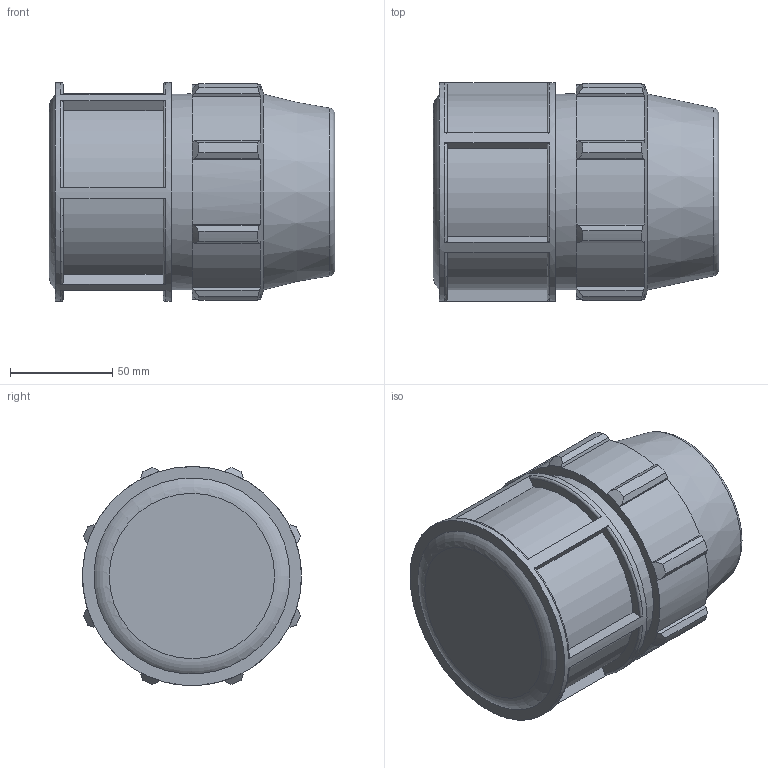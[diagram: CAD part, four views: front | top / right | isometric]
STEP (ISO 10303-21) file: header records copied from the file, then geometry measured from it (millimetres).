
FILE_DESCRIPTION(/* description */ ('PLASSON END PLUG 2'''''),/* implementation_level */ '2;1');
FILE_NAME(/* name */ 'C:\Dropbox\KIMPROJECTS-Inventor 2019\99-16-3568-Processing Inch\ASTM Compression 2021\0712M0\0712M0200.ipt.stp',/* time_stamp */ '2021-08-26T12:33:19+03:00',/* author */ ('Кирилл'),/* organization */ (''),/* preprocessor_version */ 'ST-DEVELOPER v17.2',/* originating_system */ 'Autodesk Inventor 2019',/* authorisation */ '');
FILE_SCHEMA (('AUTOMOTIVE_DESIGN { 1 0 10303 214 3 1 1 }'));
Length unit declared in the file: inch
Products named in the file (1): 0712M0200
Bounding box: 139.95 x 107.33 x 107.37 mm (x, y, z)
Volume: 670873 mm3; surface area: 94301.7 mm2
Topology: 1 solids, 1 shells, 115 faces, 317 edges, 215 vertices
Faces by surface type: plane 63, cylinder 25, torus 15, cone 12
Full cylindrical faces by diameter (mm): 60.1 x1, 96.076 x1, 107.378 x1
Entity records: 4019 total; most frequent: CARTESIAN_POINT 928, ORIENTED_EDGE 634, DIRECTION 603, EDGE_CURVE 317, AXIS2_PLACEMENT_3D 226, VERTEX_POINT 215, LINE 151, VECTOR 151
